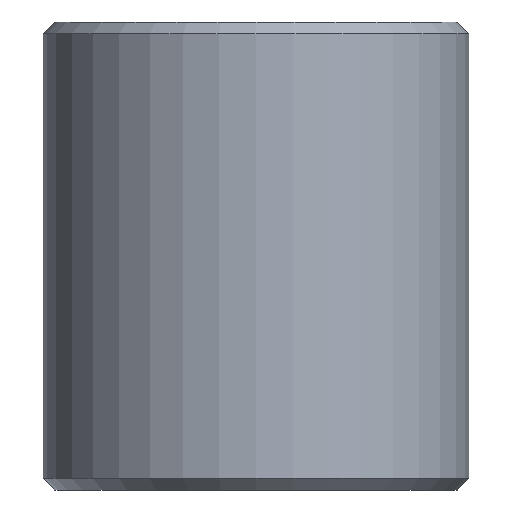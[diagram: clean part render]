
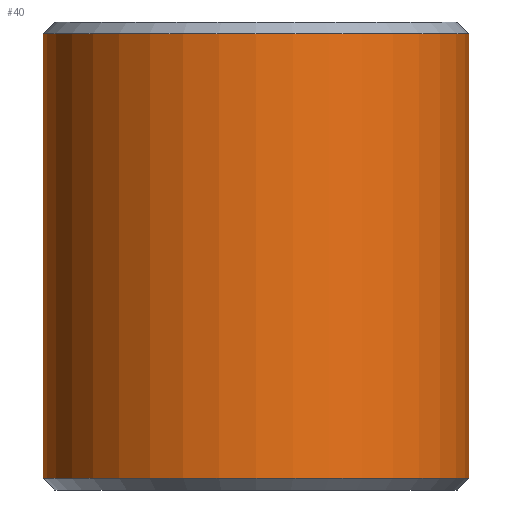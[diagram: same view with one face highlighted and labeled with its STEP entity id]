
A CAD part, front view. The second image highlights one B-rep face of the part: STEP entity #40.
In plain terms, the highlighted cylindrical face has radius 40 mm (diameter 80 mm), a partial arc.
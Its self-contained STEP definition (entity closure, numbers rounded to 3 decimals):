
#6 = DIRECTION ( 'NONE',  ( 0., 0., 1. ) ) ;
#16 = ORIENTED_EDGE ( 'NONE', *, *, #26, .T. ) ;
#26 = EDGE_CURVE ( 'NONE', #33, #224, #349, .T. ) ;
#33 = VERTEX_POINT ( 'NONE', #445 ) ;
#40 = ADVANCED_FACE ( 'NONE', ( #133 ), #274, .T. ) ;
#57 = EDGE_LOOP ( 'NONE', ( #69, #396, #16, #326 ) ) ;
#69 = ORIENTED_EDGE ( 'NONE', *, *, #208, .F. ) ;
#70 = DIRECTION ( 'NONE',  ( -1., 0., 0. ) ) ;
#95 = DIRECTION ( 'NONE',  ( 0., 0., -1. ) ) ;
#99 = EDGE_CURVE ( 'NONE', #224, #386, #229, .T. ) ;
#103 = DIRECTION ( 'NONE',  ( 0., 0., -1. ) ) ;
#104 = VERTEX_POINT ( 'NONE', #420 ) ;
#107 = DIRECTION ( 'NONE',  ( 0., 0., -1. ) ) ;
#124 = AXIS2_PLACEMENT_3D ( 'NONE', #231, #95, #199 ) ;
#133 = FACE_OUTER_BOUND ( 'NONE', #57, .T. ) ;
#142 = DIRECTION ( 'NONE',  ( 1., 0., 0. ) ) ;
#159 = CARTESIAN_POINT ( 'NONE',  ( 40., 0., -41.8 ) ) ;
#174 = CARTESIAN_POINT ( 'NONE',  ( 0., 0., -41.8 ) ) ;
#179 = CARTESIAN_POINT ( 'NONE',  ( -40., 0., -41.8 ) ) ;
#199 = DIRECTION ( 'NONE',  ( 1., 0., 0. ) ) ;
#208 = EDGE_CURVE ( 'NONE', #104, #386, #321, .T. ) ;
#212 = AXIS2_PLACEMENT_3D ( 'NONE', #174, #6, #142 ) ;
#224 = VERTEX_POINT ( 'NONE', #179 ) ;
#229 = CIRCLE ( 'NONE', #212, 40. ) ;
#231 = CARTESIAN_POINT ( 'NONE',  ( 0., 0., 41.8 ) ) ;
#263 = CIRCLE ( 'NONE', #124, 40. ) ;
#266 = AXIS2_PLACEMENT_3D ( 'NONE', #319, #103, #70 ) ;
#274 = CYLINDRICAL_SURFACE ( 'NONE', #266, 40. ) ;
#275 = CARTESIAN_POINT ( 'NONE',  ( -40., 0., 44. ) ) ;
#287 = CARTESIAN_POINT ( 'NONE',  ( 40., 0., 44. ) ) ;
#298 = DIRECTION ( 'NONE',  ( 0., 0., -1. ) ) ;
#319 = CARTESIAN_POINT ( 'NONE',  ( 0., 0., 44. ) ) ;
#321 = LINE ( 'NONE', #287, #415 ) ;
#326 = ORIENTED_EDGE ( 'NONE', *, *, #99, .T. ) ;
#349 = LINE ( 'NONE', #275, #432 ) ;
#386 = VERTEX_POINT ( 'NONE', #159 ) ;
#396 = ORIENTED_EDGE ( 'NONE', *, *, #423, .T. ) ;
#415 = VECTOR ( 'NONE', #298, 1000. ) ;
#420 = CARTESIAN_POINT ( 'NONE',  ( 40., 0., 41.8 ) ) ;
#423 = EDGE_CURVE ( 'NONE', #104, #33, #263, .T. ) ;
#432 = VECTOR ( 'NONE', #107, 1000. ) ;
#445 = CARTESIAN_POINT ( 'NONE',  ( -40., 0., 41.8 ) ) ;
